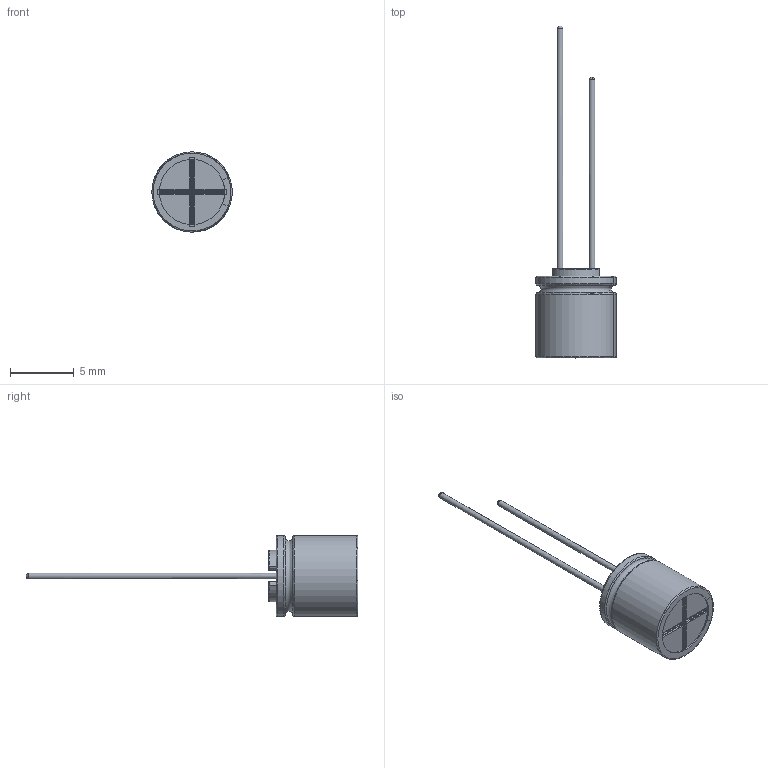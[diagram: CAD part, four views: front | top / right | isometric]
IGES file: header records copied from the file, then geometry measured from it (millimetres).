
Start section: JAMA-IS VERSION  1.0
Bounding box: 6.29 x 26 x 6.3 mm (x, y, z)
Surface area: 551.3 mm2 (no closed solid volume)
Topology: 0 solids, 0 shells, 120 faces, 1287 edges, 1276 vertices
Faces by surface type: bspline 120
